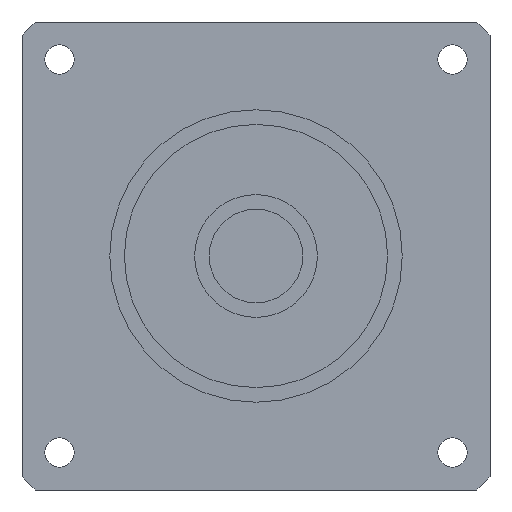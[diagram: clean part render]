
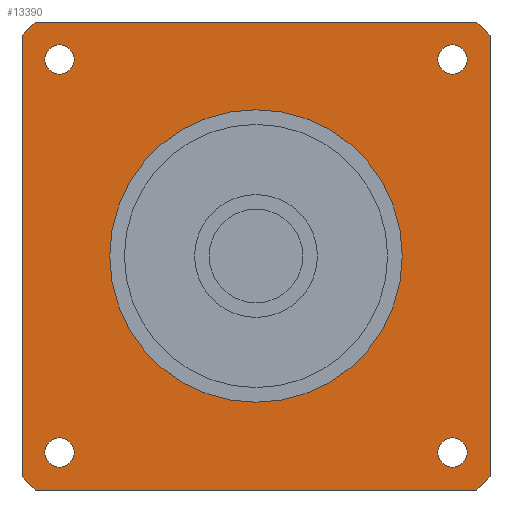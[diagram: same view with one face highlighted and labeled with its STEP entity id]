
A CAD part, left-side view. The second image highlights one B-rep face of the part: STEP entity #13390.
In plain terms, the highlighted planar face has unit normal (-1, 0, 0) as drawn and (0, 0, -1) by its records, which use the part's own axes.
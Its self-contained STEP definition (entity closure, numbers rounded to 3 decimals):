
#8680=CARTESIAN_POINT('',(-40.,-37.749,-42.2));
#8690=VERTEX_POINT('',#8680);
#8740=CARTESIAN_POINT('',(-40.,40.,-42.2));
#8750=DIRECTION('',(0.,-1.,0.));
#8760=VECTOR('',#8750,1000.);
#8770=LINE('',#8740,#8760);
#8780=CARTESIAN_POINT('',(-40.,37.749,-42.2));
#8790=VERTEX_POINT('',#8780);
#8800=EDGE_CURVE('',#8790,#8690,#8770,.T.);
#9080=CARTESIAN_POINT('',(-37.749,40.,-42.2));
#9090=VERTEX_POINT('',#9080);
#9220=CARTESIAN_POINT('',(0.,0.,
-42.2));
#9230=DIRECTION('',(0.,0.,1.));
#9240=DIRECTION('',(0.,1.,0.));
#9250=AXIS2_PLACEMENT_3D('',#9220,#9230,#9240);
#9260=CIRCLE('',#9250,55.);
#9270=EDGE_CURVE('',#9090,#8790,#9260,.T.);
#11930=CARTESIAN_POINT('',(33.588,-31.088,-42.2));
#11940=VERTEX_POINT('',#11930);
#12020=CARTESIAN_POINT('',(33.588,-36.088,-42.2));
#12030=VERTEX_POINT('',#12020);
#12060=CARTESIAN_POINT('',(33.588,-33.588,-42.2));
#12070=DIRECTION('',(0.,0.,1.));
#12080=DIRECTION('',(0.,1.,0.));
#12090=AXIS2_PLACEMENT_3D('',#12060,#12070,#12080);
#12100=CIRCLE('',#12090,2.5);
#12110=EDGE_CURVE('',#12030,#11940,#12100,.T.);
#12160=CARTESIAN_POINT('',(40.,-40.,-42.2));
#12170=DIRECTION('',(0.,0.,1.));
#12180=DIRECTION('',(0.,1.,0.));
#12190=AXIS2_PLACEMENT_3D('',#12160,#12170,#12180);
#12200=PLANE('',#12190);
#12210=CARTESIAN_POINT('',(-33.588,-33.588,-42.2));
#12220=DIRECTION('',(0.,0.,1.));
#12230=DIRECTION('',(0.,1.,0.));
#12240=AXIS2_PLACEMENT_3D('',#12210,#12220,#12230);
#12250=CIRCLE('',#12240,2.5);
#12260=CARTESIAN_POINT('',(-33.588,-31.088,-42.2));
#12270=VERTEX_POINT('',#12260);
#12280=CARTESIAN_POINT('',(-33.588,-36.088,-42.2));
#12290=VERTEX_POINT('',#12280);
#12300=EDGE_CURVE('',#12270,#12290,#12250,.T.);
#12310=ORIENTED_EDGE('',*,*,#12300,.T.);
#12320=EDGE_CURVE('',#12290,#12270,#12250,.T.);
#12330=ORIENTED_EDGE('',*,*,#12320,.T.);
#12340=EDGE_LOOP('',(#12330,#12310));
#12350=FACE_BOUND('',#12340,.T.);
#12360=CARTESIAN_POINT('',(33.588,33.588,-42.2));
#12370=DIRECTION('',(0.,0.,1.));
#12380=DIRECTION('',(0.,1.,0.));
#12390=AXIS2_PLACEMENT_3D('',#12360,#12370,#12380);
#12400=CIRCLE('',#12390,2.5);
#12410=CARTESIAN_POINT('',(33.588,36.088,-42.2));
#12420=VERTEX_POINT('',#12410);
#12430=CARTESIAN_POINT('',(33.588,31.088,-42.2));
#12440=VERTEX_POINT('',#12430);
#12450=EDGE_CURVE('',#12420,#12440,#12400,.T.);
#12460=ORIENTED_EDGE('',*,*,#12450,.T.);
#12470=EDGE_CURVE('',#12440,#12420,#12400,.T.);
#12480=ORIENTED_EDGE('',*,*,#12470,.T.);
#12490=EDGE_LOOP('',(#12480,#12460));
#12500=FACE_BOUND('',#12490,.T.);
#12510=CARTESIAN_POINT('',(-33.588,33.588,-42.2));
#12520=DIRECTION('',(0.,0.,1.));
#12530=DIRECTION('',(0.,1.,0.));
#12540=AXIS2_PLACEMENT_3D('',#12510,#12520,#12530);
#12550=CIRCLE('',#12540,2.5);
#12560=CARTESIAN_POINT('',(-33.588,36.088,-42.2));
#12570=VERTEX_POINT('',#12560);
#12580=CARTESIAN_POINT('',(-33.588,31.088,-42.2));
#12590=VERTEX_POINT('',#12580);
#12600=EDGE_CURVE('',#12570,#12590,#12550,.T.);
#12610=ORIENTED_EDGE('',*,*,#12600,.T.);
#12620=EDGE_CURVE('',#12590,#12570,#12550,.T.);
#12630=ORIENTED_EDGE('',*,*,#12620,.T.);
#12640=EDGE_LOOP('',(#12630,#12610));
#12650=FACE_BOUND('',#12640,.T.);
#12660=CARTESIAN_POINT('',(0.,0.,
-42.2));
#12670=DIRECTION('',(0.,0.,1.));
#12680=DIRECTION('',(0.,-1.,0.));
#12690=AXIS2_PLACEMENT_3D('',#12660,#12670,#12680);
#12700=CIRCLE('',#12690,25.);
#12710=CARTESIAN_POINT('',(0.,-25.,-42.2));
#12720=VERTEX_POINT('',#12710);
#12730=CARTESIAN_POINT('',(0.,25.,-42.2));
#12740=VERTEX_POINT('',#12730);
#12750=EDGE_CURVE('',#12720,#12740,#12700,.T.);
#12760=ORIENTED_EDGE('',*,*,#12750,.T.);
#12770=EDGE_CURVE('',#12740,#12720,#12700,.T.);
#12780=ORIENTED_EDGE('',*,*,#12770,.T.);
#12790=EDGE_LOOP('',(#12780,#12760));
#12800=FACE_BOUND('',#12790,.T.);
#12810=EDGE_CURVE('',#11940,#12030,#12100,.T.);
#12820=ORIENTED_EDGE('',*,*,#12810,.T.);
#12830=ORIENTED_EDGE('',*,*,#12110,.T.);
#12840=EDGE_LOOP('',(#12830,#12820));
#12850=FACE_BOUND('',#12840,.T.);
#12860=ORIENTED_EDGE('',*,*,#9270,.F.);
#12870=ORIENTED_EDGE('',*,*,#8800,.F.);
#12880=CARTESIAN_POINT('',(0.,0.,
-42.2));
#12890=DIRECTION('',(0.,0.,1.));
#12900=DIRECTION('',(0.,1.,0.));
#12910=AXIS2_PLACEMENT_3D('',#12880,#12890,#12900);
#12920=CIRCLE('',#12910,55.);
#12930=CARTESIAN_POINT('',(-37.749,-40.,-42.2));
#12940=VERTEX_POINT('',#12930);
#12950=EDGE_CURVE('',#8690,#12940,#12920,.T.);
#12960=ORIENTED_EDGE('',*,*,#12950,.F.);
#12970=CARTESIAN_POINT('',(-40.,-40.,-42.2));
#12980=DIRECTION('',(1.,0.,0.));
#12990=VECTOR('',#12980,1000.);
#13000=LINE('',#12970,#12990);
#13010=CARTESIAN_POINT('',(37.749,-40.,-42.2));
#13020=VERTEX_POINT('',#13010);
#13030=EDGE_CURVE('',#12940,#13020,#13000,.T.);
#13040=ORIENTED_EDGE('',*,*,#13030,.F.);
#13050=CARTESIAN_POINT('',(0.,0.,
-42.2));
#13060=DIRECTION('',(0.,0.,1.));
#13070=DIRECTION('',(0.,1.,0.));
#13080=AXIS2_PLACEMENT_3D('',#13050,#13060,#13070);
#13090=CIRCLE('',#13080,55.);
#13100=CARTESIAN_POINT('',(40.,-37.749,-42.2));
#13110=VERTEX_POINT('',#13100);
#13120=EDGE_CURVE('',#13020,#13110,#13090,.T.);
#13130=ORIENTED_EDGE('',*,*,#13120,.F.);
#13140=CARTESIAN_POINT('',(40.,-40.,-42.2));
#13150=DIRECTION('',(0.,1.,0.));
#13160=VECTOR('',#13150,1000.);
#13170=LINE('',#13140,#13160);
#13180=CARTESIAN_POINT('',(40.,37.749,-42.2));
#13190=VERTEX_POINT('',#13180);
#13200=EDGE_CURVE('',#13110,#13190,#13170,.T.);
#13210=ORIENTED_EDGE('',*,*,#13200,.F.);
#13220=CARTESIAN_POINT('',(0.,0.,
-42.2));
#13230=DIRECTION('',(0.,0.,1.));
#13240=DIRECTION('',(0.,1.,0.));
#13250=AXIS2_PLACEMENT_3D('',#13220,#13230,#13240);
#13260=CIRCLE('',#13250,55.);
#13270=CARTESIAN_POINT('',(37.749,40.,-42.2));
#13280=VERTEX_POINT('',#13270);
#13290=EDGE_CURVE('',#13190,#13280,#13260,.T.);
#13300=ORIENTED_EDGE('',*,*,#13290,.F.);
#13310=CARTESIAN_POINT('',(40.,40.,-42.2));
#13320=DIRECTION('',(-1.,0.,0.));
#13330=VECTOR('',#13320,1000.);
#13340=LINE('',#13310,#13330);
#13350=EDGE_CURVE('',#13280,#9090,#13340,.T.);
#13360=ORIENTED_EDGE('',*,*,#13350,.F.);
#13370=EDGE_LOOP('',(#13360,#13300,#13210,#13130,#13040,#12960,#12870,
#12860));
#13380=FACE_OUTER_BOUND('',#13370,.T.);
#13390=ADVANCED_FACE('',(#12350,#12500,#12650,#12800,#12850,#13380),
#12200,.F.);
